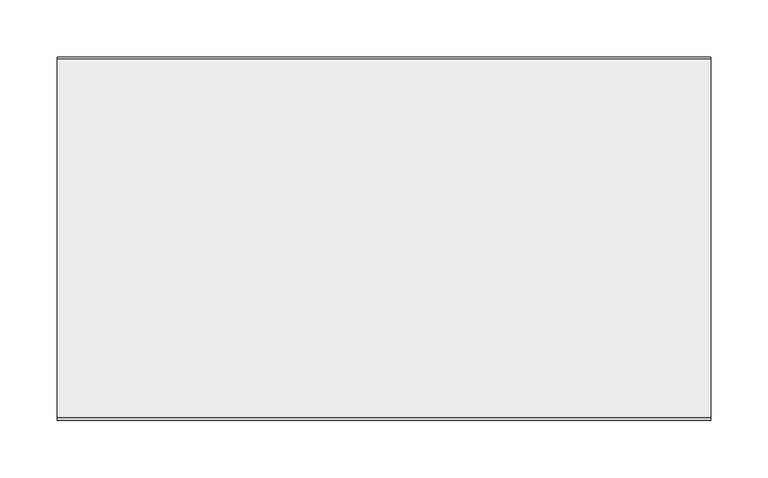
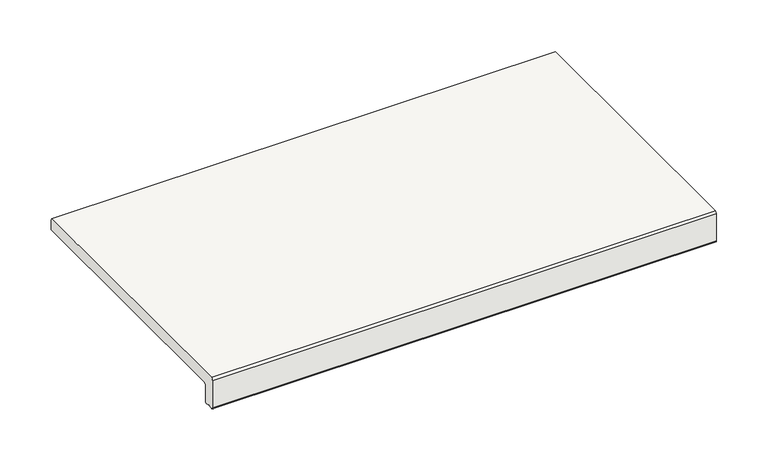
"""IFC4 building model written with IfcOpenShell, lengths in millimetres: slab geometry, ROSA GRES_L62 : Pieza L62_Tao_Beige_Anti-Slip."""

import ifcopenshell
import ifcopenshell.guid

model = None  # the IFC model being written
_history = None  # IfcOwnerHistory: only IFC2X3 demands one
_inside = {}  # id of a spatial element -> (the spatial element, [elements in it])
_under = {}  # id of a project, library or spatial element -> (it, [spatial elements below it])
_declared = {}  # id of a project -> (the project, [libraries it declares])
_typed = {}  # id of a type object -> (the type object, [elements of that type])
_made_of = {}  # id of a material, layer set ... -> (it, [elements and type objects made of it])


def new_model(schema):
    """Start an empty IFC model of exactly this schema.

    Asked for "IFC4X3", IfcOpenShell would pick the latest addendum, in which some entities
    have other attributes; the version numbers below select the first issue.
    IFC2X3 requires an IfcOwnerHistory on every rooted entity: one is made here for all.
    """
    global model, _history
    if schema == "IFC4X3":
        model = ifcopenshell.file(schema_version=(4, 3, 0, 0))
    else:
        model = ifcopenshell.file(schema=schema)
    _inside.clear()
    _under.clear()
    _declared.clear()
    _typed.clear()
    _made_of.clear()
    _history = None
    if model.schema == "IFC2X3":
        org = make("IfcOrganization", Name="unknown")
        user = make(
            "IfcPersonAndOrganization",
            ThePerson=make("IfcPerson", FamilyName="unknown"),
            TheOrganization=org,
        )
        app = make(
            "IfcApplication",
            ApplicationDeveloper=org,
            Version="unknown",
            ApplicationFullName="unknown",
            ApplicationIdentifier="unknown",
        )
        _history = make(
            "IfcOwnerHistory",
            OwningUser=user,
            OwningApplication=app,
            ChangeAction="ADDED",
            CreationDate=0,
        )
    return model


def make(cls, **values):
    """One entity of the class cls with the attributes given. An attribute that is None is left unset."""
    return model.create_entity(
        cls, **{name: value for name, value in values.items() if value is not None}
    )


def rooted(cls, **values):
    """An entity with a GlobalId (a new one), such as an element, a storey or a relation."""
    return make(cls, GlobalId=ifcopenshell.guid.new(), OwnerHistory=_history, **values)


def si_unit(unit_type, name, prefix=None):
    """IfcSIUnit, for example si_unit("LENGTHUNIT", "METRE", prefix="MILLI")."""
    return make("IfcSIUnit", UnitType=unit_type, Prefix=prefix, Name=name)


def assignment(units):
    """IfcUnitAssignment: the units of a project."""
    return None if units is None else make("IfcUnitAssignment", Units=units)


def point(xyz):
    """IfcCartesianPoint."""
    return None if xyz is None else make("IfcCartesianPoint", Coordinates=xyz)


def direction(xyz):
    """IfcDirection."""
    return None if xyz is None else make("IfcDirection", DirectionRatios=xyz)


def frame(location, z_axis=None, x_axis=None):
    """IfcAxis2Placement3D, a coordinate frame: its origin and axes. An axis left out is left unset."""
    return make(
        "IfcAxis2Placement3D",
        Location=point(location),
        Axis=direction(z_axis),
        RefDirection=direction(x_axis),
    )


def frame_2d(location, x_axis=None):
    """IfcAxis2Placement2D, a coordinate frame in the plane: its origin and x axis."""
    return make(
        "IfcAxis2Placement2D", Location=point(location), RefDirection=direction(x_axis)
    )


def origin():
    """The frame at (0, 0, 0) with its axes left unset."""
    return frame((0.0, 0.0, 0.0))


def place(relative_to, where):
    """IfcLocalPlacement: puts the frame where relative to a parent placement (None: the world)."""
    return make(
        "IfcLocalPlacement", PlacementRelTo=relative_to, RelativePlacement=where
    )


def context(
    kind, dimensions, precision=None, world=None, true_north=None, identifier=None
):
    """IfcGeometricRepresentationContext, for example the 3D "Model" context."""
    return make(
        "IfcGeometricRepresentationContext",
        ContextIdentifier=identifier,
        ContextType=kind,
        CoordinateSpaceDimension=dimensions,
        Precision=precision,
        WorldCoordinateSystem=world,
        TrueNorth=true_north,
    )


def project(units=None, contexts=None):
    """IfcProject with its units and contexts."""
    return rooted(
        "IfcProject",
        Name="project",
        RepresentationContexts=contexts,
        UnitsInContext=assignment(units),
    )


def spatial(cls, under=None, at=None, **own):
    """A site, building, storey or space (cls), placed at a placement, below another one or the project."""
    s = rooted(cls, ObjectPlacement=at, **own)
    if under is not None:
        _under.setdefault(under.id(), (under, []))[1].append(s)
    return s


def polyline(points):
    """IfcPolyline through the points."""
    return make("IfcPolyline", Points=[point(p) for p in points])


def circle_curve(where, radius):
    """IfcCircle in the frame where."""
    return make("IfcCircle", Position=where, Radius=radius)


def trimmed(basis, trim1, trim2, sense, master):
    """IfcTrimmedCurve: the piece of a basis curve between two trims."""
    return make(
        "IfcTrimmedCurve",
        BasisCurve=basis,
        Trim1=trim1,
        Trim2=trim2,
        SenseAgreement=sense,
        MasterRepresentation=master,
    )


def segment(curve, same_sense, transition):
    """IfcCompositeCurveSegment."""
    return make(
        "IfcCompositeCurveSegment",
        Transition=transition,
        SameSense=same_sense,
        ParentCurve=curve,
    )


def composite_curve(segments, self_intersect=None):
    """IfcCompositeCurve: segments joined end to end."""
    return make("IfcCompositeCurve", Segments=segments, SelfIntersect=self_intersect)


def outline(outer, holes=None, kind="AREA"):
    """IfcArbitraryClosedProfileDef: a profile drawn as a closed curve; with holes, ...WithVoids."""
    if holes is None:
        return make("IfcArbitraryClosedProfileDef", ProfileType=kind, OuterCurve=outer)
    return make(
        "IfcArbitraryProfileDefWithVoids",
        ProfileType=kind,
        OuterCurve=outer,
        InnerCurves=holes,
    )


def extrude(swept, where, along, depth):
    """IfcExtrudedAreaSolid: the profile swept, set in the frame where, extruded along a direction by depth."""
    return make(
        "IfcExtrudedAreaSolid",
        SweptArea=swept,
        Position=where,
        ExtrudedDirection=direction(along),
        Depth=depth,
    )


def shape(context_of_items, identifier, shape_type, items):
    """IfcShapeRepresentation: the items that make up one representation, for example the "Body"."""
    return make(
        "IfcShapeRepresentation",
        ContextOfItems=context_of_items,
        RepresentationIdentifier=identifier,
        RepresentationType=shape_type,
        Items=items,
    )


def source(mapping_origin, context_of_items, identifier, shape_type, items):
    """IfcRepresentationMap: a shape defined once, which mapped items show again and again."""
    return make(
        "IfcRepresentationMap",
        MappingOrigin=mapping_origin,
        MappedRepresentation=shape(context_of_items, identifier, shape_type, items),
    )


def transform(
    local_origin,
    x_axis=None,
    y_axis=None,
    z_axis=None,
    scale=None,
    scale2=None,
    scale3=None,
    uniform=True,
):
    """IfcCartesianTransformationOperator3D, or its non-uniform kind. x_axis, y_axis, z_axis: its Axis1, 2, 3."""
    if uniform:
        return make(
            "IfcCartesianTransformationOperator3D",
            Axis1=direction(x_axis),
            Axis2=direction(y_axis),
            LocalOrigin=point(local_origin),
            Scale=scale,
            Axis3=direction(z_axis),
        )
    return make(
        "IfcCartesianTransformationOperator3DnonUniform",
        Axis1=direction(x_axis),
        Axis2=direction(y_axis),
        LocalOrigin=point(local_origin),
        Scale=scale,
        Axis3=direction(z_axis),
        Scale2=scale2,
        Scale3=scale3,
    )


def mapped(mapping_source, mapping_target):
    """IfcMappedItem: shows the shape of a source again, moved by a transform."""
    return make(
        "IfcMappedItem", MappingSource=mapping_source, MappingTarget=mapping_target
    )


def made_of(thing, what):
    """Note that an element or type object is made of a material, layer set ...; save() writes the relation."""
    if what is not None:
        _made_of.setdefault(what.id(), (what, []))[1].append(thing)
    return thing


def element(
    cls,
    number,
    at=None,
    inside=None,
    cuts=None,
    type_object=None,
    material=None,
    context=None,
    identifier="Body",
    shape_type=None,
    held_by="IfcProductDefinitionShape",
    body=None,
    shapes=None,
    **own,
):
    """One element of the class cls, such as IfcWall. Its Tag is "e" and its number.

    at: its placement. inside: the storey or other place that contains it. cuts: it is an
    opening in that element (IfcRelVoidsElement). A single representation is given by context,
    identifier, shape_type and body (its items); several are given by shapes. held_by: the class
    of the entity that holds the representations. save() writes the other relations.
    """
    e = rooted(cls, Tag="e%d" % number, ObjectPlacement=at, **own)
    if body is not None:
        shapes = [shape(context, identifier, shape_type, body)]
    if shapes is not None:
        e.Representation = make(held_by, Representations=shapes)
    if inside is not None:
        _inside.setdefault(inside.id(), (inside, []))[1].append(e)
    if cuts is not None:
        rooted(
            "IfcRelVoidsElement", RelatingBuildingElement=cuts, RelatedOpeningElement=e
        )
    if type_object is not None:
        _typed.setdefault(type_object.id(), (type_object, []))[1].append(e)
    return made_of(e, material)


def aggregate(whole, parts):
    """IfcRelAggregates: a whole, such as a stair, and the parts it consists of."""
    return rooted("IfcRelAggregates", RelatingObject=whole, RelatedObjects=parts)


def save(model, path):
    """Write the relations noted so far, then the file.

    IfcRelAggregates (storeys below a building ...), IfcRelContainedInSpatialStructure (elements
    in a storey), IfcRelDefinesByType, IfcRelAssociatesMaterial and IfcRelDeclares: one each for
    every whole, place, type object, material and project.
    """
    for whole, parts in _under.values():
        aggregate(whole, parts)
    for where, things in _inside.values():
        rooted(
            "IfcRelContainedInSpatialStructure",
            RelatedElements=things,
            RelatingStructure=where,
        )
    for kind, things in _typed.values():
        rooted("IfcRelDefinesByType", RelatedObjects=things, RelatingType=kind)
    for what, things in _made_of.values():
        rooted("IfcRelAssociatesMaterial", RelatedObjects=things, RelatingMaterial=what)
    for by, libraries in _declared.values():
        rooted("IfcRelDeclares", RelatingContext=by, RelatedDefinitions=libraries)
    model.write(path)


def slab_759c7b63(model_context):
    return source(origin(), model_context, "Body", "SweptSolid", [
        extrude(outline(composite_curve([segment(polyline([(12.1001991, -37.0), (9.4054777, -37.0)]), True, "CONTINUOUS"), segment(trimmed(circle_curve(frame_2d((7.4142134, -37.0)), 1.9912643), [point((9.4054777, -37.0))], [point((5.422949, -37.0))], True, "CARTESIAN"), True, "CONTINUOUS"), segment(polyline([(5.422949, -37.0), (2.5, -37.0)]), True, "CONTINUOUS"), segment(trimmed(circle_curve(frame_2d((2.5, -34.5)), 2.5), [point((2.5, -37.0))], [point((0.0, -34.5))], False, "CARTESIAN"), True, "CONTINUOUS"), segment(polyline([(0.0, -34.5), (0.0, -2.5), (2.5, 0.0), (315.5, 0.0), (317.0, -2.5), (317.0, -12.4648352)]), True, "CONTINUOUS"), segment(trimmed(circle_curve(frame_2d((315.5234432, -12.4648352)), 1.4765568), [point((317.0, -12.4648352))], [point((315.5234432, -13.9413919))], False, "CARTESIAN"), True, "CONTINUOUS"), segment(polyline([(315.5234432, -13.9413919), (16.6422322, -13.9413919)]), True, "CONTINUOUS"), segment(trimmed(circle_curve(frame_2d((16.6422322, -16.5836242)), 2.6422322), [point((16.6422322, -13.9413919))], [point((14.0, -16.5836242))], True, "CARTESIAN"), True, "CONTINUOUS"), segment(polyline([(14.0, -16.5836242), (14.0, -35.1001991)]), True, "CONTINUOUS"), segment(trimmed(circle_curve(frame_2d((12.1001991, -35.1001991)), 1.8998009), [point((14.0, -35.1001991))], [point((12.1001991, -37.0))], False, "CARTESIAN"), True, "CONTINUOUS")], self_intersect=False)), frame((0.0, 0.0, 0.0), z_axis=(1.0, 0.0, 0.0), x_axis=(0.0, 1.0, 0.0)), (0.0, 0.0, 1.0), 570.0),
    ])


if __name__ == "__main__":
    model = new_model("IFC4")
    model_context = context("Model", 3, world=origin())
    ifc_project = project(units=[si_unit("LENGTHUNIT", "METRE", prefix="MILLI")], contexts=[model_context])
    site = spatial("IfcSite", under=ifc_project)
    building = spatial("IfcBuilding", under=site)
    placement = place(None, origin())
    slab_shape = slab_759c7b63(model_context)
    element("IfcSlab", 1, ObjectType="ROSA GRES_L62 : Pieza L62_Tao_Beige_Anti-Slip", at=placement, inside=building, context=model_context, shape_type="MappedRepresentation", body=[
        mapped(slab_shape, transform((0.0, 0.0, 0.0), x_axis=(1.0, 0.0, 0.0), y_axis=(0.0, 1.0, 0.0), z_axis=(0.0, 0.0, 1.0))),
    ])
    save(model, "model.ifc")
